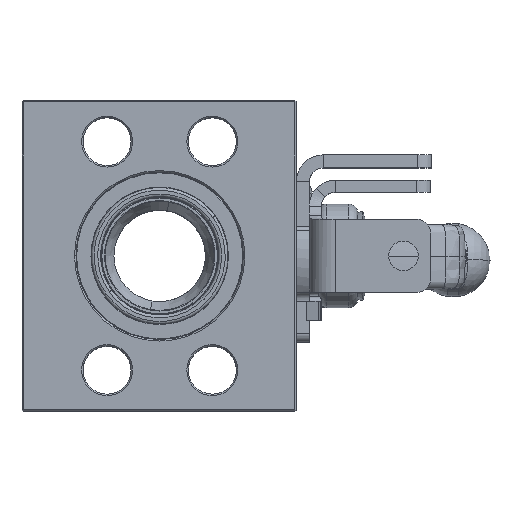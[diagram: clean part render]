
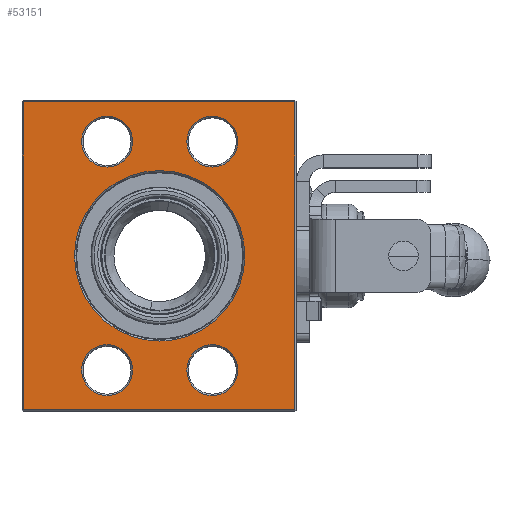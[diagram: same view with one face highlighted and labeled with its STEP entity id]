
A CAD part, top view. The second image highlights one B-rep face of the part: STEP entity #53151.
In plain terms, the highlighted planar face has unit normal (0, 0, 1).
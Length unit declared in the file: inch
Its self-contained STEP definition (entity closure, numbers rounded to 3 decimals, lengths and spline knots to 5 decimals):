
#897 = DIRECTION ( 'NONE',  ( -1., 0., 0. ) ) ;
#2733 = AXIS2_PLACEMENT_3D ( 'NONE', #39354, #25197, #897 ) ;
#3687 = ORIENTED_EDGE ( 'NONE', *, *, #30027, .T. ) ;
#3850 = ORIENTED_EDGE ( 'NONE', *, *, #21241, .T. ) ;
#3945 = CARTESIAN_POINT ( 'NONE',  ( 2.68206, 3.63369, 3.9576 ) ) ;
#4163 = CARTESIAN_POINT ( 'NONE',  ( 2.68206, 0.50969, 3.9576 ) ) ;
#4253 = DIRECTION ( 'NONE',  ( -1., 0., 0. ) ) ;
#4559 = CARTESIAN_POINT ( 'NONE',  ( 0.89606, 3.63369, 3.9576 ) ) ;
#5150 = CARTESIAN_POINT ( 'NONE',  ( 1.98606, 3.63369, 3.9576 ) ) ;
#5257 = CIRCLE ( 'NONE', #45518, 1.165 ) ;
#5401 = AXIS2_PLACEMENT_3D ( 'NONE', #29413, #48149, #6036 ) ;
#6036 = DIRECTION ( 'NONE',  ( -1., 0., 0. ) ) ;
#6208 = VECTOR ( 'NONE', #36572, 39.37008 ) ;
#6316 = CARTESIAN_POINT ( 'NONE',  ( 2.33406, 0.50969, 3.9576 ) ) ;
#6913 = EDGE_LOOP ( 'NONE', ( #14590, #3850 ) ) ;
#7686 = DIRECTION ( 'NONE',  ( 0., 0., -1. ) ) ;
#9243 = LINE ( 'NONE', #28006, #51560 ) ;
#9881 = CARTESIAN_POINT ( 'NONE',  ( 1.98606, 0.50969, 3.9576 ) ) ;
#11023 = VERTEX_POINT ( 'NONE', #14932 ) ;
#11028 = EDGE_LOOP ( 'NONE', ( #37877, #36616 ) ) ;
#11261 = EDGE_CURVE ( 'NONE', #15040, #52135, #29994, .T. ) ;
#11824 = DIRECTION ( 'NONE',  ( 0., -1., 0. ) ) ;
#12294 = ORIENTED_EDGE ( 'NONE', *, *, #53770, .T. ) ;
#12879 = AXIS2_PLACEMENT_3D ( 'NONE', #43270, #56791, #52174 ) ;
#13104 = EDGE_CURVE ( 'NONE', #33775, #24877, #47357, .T. ) ;
#13486 = CIRCLE ( 'NONE', #47854, 0.348 ) ;
#13731 = EDGE_CURVE ( 'NONE', #21643, #16019, #39584, .T. ) ;
#14355 = FACE_BOUND ( 'NONE', #6913, .T. ) ;
#14453 = DIRECTION ( 'NONE',  ( 1., 0., 0. ) ) ;
#14590 = ORIENTED_EDGE ( 'NONE', *, *, #34459, .T. ) ;
#14932 = CARTESIAN_POINT ( 'NONE',  ( 3.46306, 4.17669, 3.9576 ) ) ;
#15035 = ORIENTED_EDGE ( 'NONE', *, *, #49248, .T. ) ;
#15040 = VERTEX_POINT ( 'NONE', #31191 ) ;
#15263 = FACE_BOUND ( 'NONE', #11028, .T. ) ;
#15402 = EDGE_CURVE ( 'NONE', #26555, #29872, #5257, .T. ) ;
#15821 = VECTOR ( 'NONE', #48090, 39.37008 ) ;
#15843 = DIRECTION ( 'NONE',  ( 0., 0., -1. ) ) ;
#16019 = VERTEX_POINT ( 'NONE', #3945 ) ;
#16110 = CARTESIAN_POINT ( 'NONE',  ( 2.33406, 3.63369, 3.9576 ) ) ;
#16404 = DIRECTION ( 'NONE',  ( -1., 0., 0. ) ) ;
#16895 = CARTESIAN_POINT ( 'NONE',  ( 2.33406, 0.50969, 3.9576 ) ) ;
#17025 = DIRECTION ( 'NONE',  ( 0., 0., -1. ) ) ;
#17241 = CARTESIAN_POINT ( 'NONE',  ( 0.89606, 0.50969, 3.9576 ) ) ;
#17830 = LINE ( 'NONE', #45182, #6208 ) ;
#19898 = FACE_BOUND ( 'NONE', #35907, .T. ) ;
#20376 = EDGE_CURVE ( 'NONE', #29872, #26555, #59669, .T. ) ;
#21241 = EDGE_CURVE ( 'NONE', #50434, #41212, #42107, .T. ) ;
#21311 = CARTESIAN_POINT ( 'NONE',  ( 0.45006, 2.07169, 3.9576 ) ) ;
#21512 = DIRECTION ( 'NONE',  ( 0., 0., -1. ) ) ;
#21643 = VERTEX_POINT ( 'NONE', #5150 ) ;
#22528 = CARTESIAN_POINT ( 'NONE',  ( -0.24694, -0.03331, 3.9576 ) ) ;
#23336 = DIRECTION ( 'NONE',  ( 0., 0., -1. ) ) ;
#24877 = VERTEX_POINT ( 'NONE', #25977 ) ;
#25197 = DIRECTION ( 'NONE',  ( 0., 0., -1. ) ) ;
#25977 = CARTESIAN_POINT ( 'NONE',  ( 0.54806, 0.50969, 3.9576 ) ) ;
#26555 = VERTEX_POINT ( 'NONE', #21311 ) ;
#26998 = EDGE_CURVE ( 'NONE', #24877, #33775, #55864, .T. ) ;
#27276 = EDGE_LOOP ( 'NONE', ( #55632, #50251, #54773, #15035 ) ) ;
#27706 = CARTESIAN_POINT ( 'NONE',  ( 0.54806, 3.63369, 3.9576 ) ) ;
#28006 = CARTESIAN_POINT ( 'NONE',  ( -0.26694, -0.03331, 3.9576 ) ) ;
#28327 = DIRECTION ( 'NONE',  ( -1., 0., 0. ) ) ;
#29005 = CARTESIAN_POINT ( 'NONE',  ( 1.24406, 3.63369, 3.9576 ) ) ;
#29271 = ORIENTED_EDGE ( 'NONE', *, *, #13731, .T. ) ;
#29413 = CARTESIAN_POINT ( 'NONE',  ( -0.26694, -0.05331, 3.9576 ) ) ;
#29872 = VERTEX_POINT ( 'NONE', #35349 ) ;
#29943 = DIRECTION ( 'NONE',  ( 0., 0., -1. ) ) ;
#29994 = LINE ( 'NONE', #34911, #34522 ) ;
#30027 = EDGE_CURVE ( 'NONE', #56088, #39510, #35468, .T. ) ;
#30563 = AXIS2_PLACEMENT_3D ( 'NONE', #17241, #7686, #55336 ) ;
#31157 = CARTESIAN_POINT ( 'NONE',  ( 0.89606, 3.63369, 3.9576 ) ) ;
#31191 = CARTESIAN_POINT ( 'NONE',  ( -0.24694, 4.17669, 3.9576 ) ) ;
#31553 = CIRCLE ( 'NONE', #12879, 0.348 ) ;
#33126 = PLANE ( 'NONE',  #5401 ) ;
#33232 = AXIS2_PLACEMENT_3D ( 'NONE', #16895, #21512, #39666 ) ;
#33775 = VERTEX_POINT ( 'NONE', #58150 ) ;
#34036 = FACE_BOUND ( 'NONE', #53909, .T. ) ;
#34261 = CARTESIAN_POINT ( 'NONE',  ( 0.89606, 0.50969, 3.9576 ) ) ;
#34459 = EDGE_CURVE ( 'NONE', #41212, #50434, #13486, .T. ) ;
#34522 = VECTOR ( 'NONE', #11824, 39.37008 ) ;
#34911 = CARTESIAN_POINT ( 'NONE',  ( -0.24694, -0.05331, 3.9576 ) ) ;
#35349 = CARTESIAN_POINT ( 'NONE',  ( 2.78006, 2.07169, 3.9576 ) ) ;
#35468 = CIRCLE ( 'NONE', #56050, 0.348 ) ;
#35907 = EDGE_LOOP ( 'NONE', ( #44779, #42428 ) ) ;
#36572 = DIRECTION ( 'NONE',  ( -1., 0., 0. ) ) ;
#36616 = ORIENTED_EDGE ( 'NONE', *, *, #26998, .T. ) ;
#37503 = DIRECTION ( 'NONE',  ( -1., 0., 0. ) ) ;
#37666 = LINE ( 'NONE', #57620, #15821 ) ;
#37731 = FACE_BOUND ( 'NONE', #60416, .T. ) ;
#37877 = ORIENTED_EDGE ( 'NONE', *, *, #13104, .T. ) ;
#38203 = ORIENTED_EDGE ( 'NONE', *, *, #54306, .T. ) ;
#39354 = CARTESIAN_POINT ( 'NONE',  ( 1.61506, 2.07169, 3.9576 ) ) ;
#39510 = VERTEX_POINT ( 'NONE', #27706 ) ;
#39584 = CIRCLE ( 'NONE', #40531, 0.348 ) ;
#39666 = DIRECTION ( 'NONE',  ( -1., 0., 0. ) ) ;
#40378 = AXIS2_PLACEMENT_3D ( 'NONE', #31157, #17025, #37503 ) ;
#40531 = AXIS2_PLACEMENT_3D ( 'NONE', #16110, #58817, #16404 ) ;
#41170 = AXIS2_PLACEMENT_3D ( 'NONE', #34261, #29943, #52691 ) ;
#41212 = VERTEX_POINT ( 'NONE', #4163 ) ;
#42107 = CIRCLE ( 'NONE', #33232, 0.348 ) ;
#42135 = EDGE_CURVE ( 'NONE', #52135, #53005, #9243, .T. ) ;
#42428 = ORIENTED_EDGE ( 'NONE', *, *, #15402, .T. ) ;
#42478 = CARTESIAN_POINT ( 'NONE',  ( 1.61506, 2.07169, 3.9576 ) ) ;
#43233 = DIRECTION ( 'NONE',  ( -1., 0., 0. ) ) ;
#43270 = CARTESIAN_POINT ( 'NONE',  ( 2.33406, 3.63369, 3.9576 ) ) ;
#44779 = ORIENTED_EDGE ( 'NONE', *, *, #20376, .T. ) ;
#44974 = EDGE_CURVE ( 'NONE', #53005, #11023, #37666, .T. ) ;
#45182 = CARTESIAN_POINT ( 'NONE',  ( -0.26694, 4.17669, 3.9576 ) ) ;
#45518 = AXIS2_PLACEMENT_3D ( 'NONE', #42478, #47061, #28327 ) ;
#47061 = DIRECTION ( 'NONE',  ( 0., 0., -1. ) ) ;
#47357 = CIRCLE ( 'NONE', #30563, 0.348 ) ;
#47543 = CARTESIAN_POINT ( 'NONE',  ( 3.46306, -0.03331, 3.9576 ) ) ;
#47854 = AXIS2_PLACEMENT_3D ( 'NONE', #6316, #15843, #43233 ) ;
#48090 = DIRECTION ( 'NONE',  ( 0., 1., 0. ) ) ;
#48149 = DIRECTION ( 'NONE',  ( 0., 0., -1. ) ) ;
#49248 = EDGE_CURVE ( 'NONE', #11023, #15040, #17830, .T. ) ;
#50251 = ORIENTED_EDGE ( 'NONE', *, *, #42135, .T. ) ;
#50434 = VERTEX_POINT ( 'NONE', #9881 ) ;
#51560 = VECTOR ( 'NONE', #14453, 39.37008 ) ;
#52135 = VERTEX_POINT ( 'NONE', #22528 ) ;
#52174 = DIRECTION ( 'NONE',  ( -1., 0., 0. ) ) ;
#52691 = DIRECTION ( 'NONE',  ( -1., 0., 0. ) ) ;
#52763 = FACE_OUTER_BOUND ( 'NONE', #27276, .T. ) ;
#53005 = VERTEX_POINT ( 'NONE', #47543 ) ;
#53151 = ADVANCED_FACE ( 'NONE', ( #19898, #15263, #37731, #34036, #14355, #52763 ), #33126, .F. ) ;
#53770 = EDGE_CURVE ( 'NONE', #39510, #56088, #57085, .T. ) ;
#53909 = EDGE_LOOP ( 'NONE', ( #3687, #12294 ) ) ;
#54306 = EDGE_CURVE ( 'NONE', #16019, #21643, #31553, .T. ) ;
#54773 = ORIENTED_EDGE ( 'NONE', *, *, #44974, .T. ) ;
#55336 = DIRECTION ( 'NONE',  ( -1., 0., 0. ) ) ;
#55632 = ORIENTED_EDGE ( 'NONE', *, *, #11261, .T. ) ;
#55864 = CIRCLE ( 'NONE', #41170, 0.348 ) ;
#56050 = AXIS2_PLACEMENT_3D ( 'NONE', #4559, #23336, #4253 ) ;
#56088 = VERTEX_POINT ( 'NONE', #29005 ) ;
#56791 = DIRECTION ( 'NONE',  ( 0., 0., -1. ) ) ;
#57085 = CIRCLE ( 'NONE', #40378, 0.348 ) ;
#57620 = CARTESIAN_POINT ( 'NONE',  ( 3.46306, -0.05331, 3.9576 ) ) ;
#58150 = CARTESIAN_POINT ( 'NONE',  ( 1.24406, 0.50969, 3.9576 ) ) ;
#58817 = DIRECTION ( 'NONE',  ( 0., 0., -1. ) ) ;
#59669 = CIRCLE ( 'NONE', #2733, 1.165 ) ;
#60416 = EDGE_LOOP ( 'NONE', ( #38203, #29271 ) ) ;
